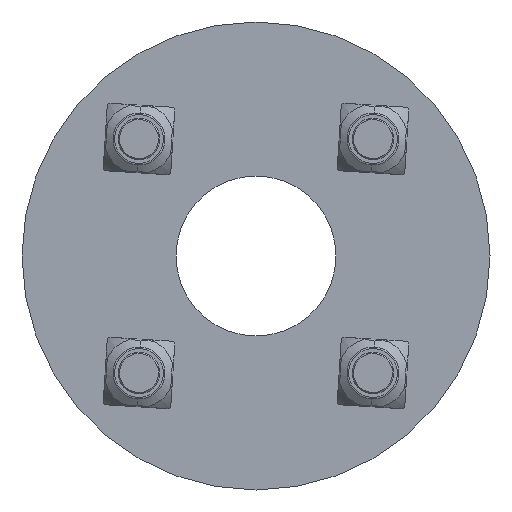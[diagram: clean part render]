
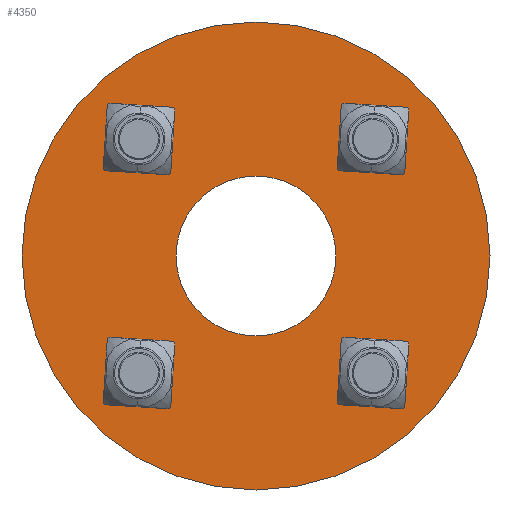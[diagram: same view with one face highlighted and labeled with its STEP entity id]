
A CAD part, front view. The second image highlights one B-rep face of the part: STEP entity #4350.
In plain terms, the highlighted planar face has unit normal (0, -1, 0).
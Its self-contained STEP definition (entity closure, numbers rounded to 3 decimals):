
#416 = CARTESIAN_POINT ( 'NONE',  ( -96.71, 19.337, 0. ) ) ;
#457 = DIRECTION ( 'NONE',  ( 0., 0., 1. ) ) ;
#461 = DIRECTION ( 'NONE',  ( 0., 1., 0. ) ) ;
#480 = PLANE ( 'NONE',  #5069 ) ;
#1379 = AXIS2_PLACEMENT_3D ( 'NONE', #7019, #7012, #7008 ) ;
#1451 = AXIS2_PLACEMENT_3D ( 'NONE', #3875, #3874, #3873 ) ;
#1477 = AXIS2_PLACEMENT_3D ( 'NONE', #5467, #5465, #5464 ) ;
#1488 = AXIS2_PLACEMENT_3D ( 'NONE', #3927, #3926, #3925 ) ;
#1491 = AXIS2_PLACEMENT_3D ( 'NONE', #6982, #6981, #6980 ) ;
#1493 = AXIS2_PLACEMENT_3D ( 'NONE', #6863, #6881, #6947 ) ;
#1518 = AXIS2_PLACEMENT_3D ( 'NONE', #5377, #5376, #5375 ) ;
#1543 = AXIS2_PLACEMENT_3D ( 'NONE', #5247, #5246, #5245 ) ;
#1569 = AXIS2_PLACEMENT_3D ( 'NONE', #5692, #5690, #5689 ) ;
#1572 = AXIS2_PLACEMENT_3D ( 'NONE', #6651, #6653, #6640 ) ;
#1581 = AXIS2_PLACEMENT_3D ( 'NONE', #5417, #5415, #5414 ) ;
#1646 = AXIS2_PLACEMENT_3D ( 'NONE', #5273, #5272, #5271 ) ;
#1695 = ORIENTED_EDGE ( 'NONE', *, *, #5066, .T. ) ;
#1699 = ORIENTED_EDGE ( 'NONE', *, *, #4949, .T. ) ;
#1700 = ORIENTED_EDGE ( 'NONE', *, *, #5009, .F. ) ;
#1703 = ORIENTED_EDGE ( 'NONE', *, *, #4826, .F. ) ;
#1705 = ORIENTED_EDGE ( 'NONE', *, *, #4847, .T. ) ;
#1720 = ORIENTED_EDGE ( 'NONE', *, *, #5057, .T. ) ;
#1742 = ORIENTED_EDGE ( 'NONE', *, *, #4993, .T. ) ;
#1744 = ORIENTED_EDGE ( 'NONE', *, *, #5054, .T. ) ;
#1747 = ORIENTED_EDGE ( 'NONE', *, *, #5017, .T. ) ;
#1760 = ORIENTED_EDGE ( 'NONE', *, *, #5079, .T. ) ;
#1969 = EDGE_LOOP ( 'NONE', ( #1747, #1760 ) ) ;
#1996 = ORIENTED_EDGE ( 'NONE', *, *, #5047, .T. ) ;
#2015 = ORIENTED_EDGE ( 'NONE', *, *, #5110, .T. ) ;
#2065 = EDGE_LOOP ( 'NONE', ( #1744, #1742 ) ) ;
#2083 = EDGE_LOOP ( 'NONE', ( #1700, #1703 ) ) ;
#2086 = EDGE_LOOP ( 'NONE', ( #1699, #1720 ) ) ;
#2147 = EDGE_LOOP ( 'NONE', ( #2015, #1705 ) ) ;
#2152 = EDGE_LOOP ( 'NONE', ( #1695, #1996 ) ) ;
#2774 = CARTESIAN_POINT ( 'NONE',  ( -96.71, 19.337, -15.375 ) ) ;
#2914 = CARTESIAN_POINT ( 'NONE',  ( -74.21, 19.337, -18. ) ) ;
#2921 = CARTESIAN_POINT ( 'NONE',  ( -119.21, 19.337, -18. ) ) ;
#2931 = CARTESIAN_POINT ( 'NONE',  ( -74.21, 19.337, 18. ) ) ;
#2938 = CARTESIAN_POINT ( 'NONE',  ( -74.21, 19.337, 27. ) ) ;
#2961 = CARTESIAN_POINT ( 'NONE',  ( -119.21, 19.337, -27. ) ) ;
#2966 = CARTESIAN_POINT ( 'NONE',  ( -96.71, 19.337, 15.375 ) ) ;
#2974 = CARTESIAN_POINT ( 'NONE',  ( -96.71, 19.337, 45. ) ) ;
#2976 = CARTESIAN_POINT ( 'NONE',  ( -96.71, 19.337, -45. ) ) ;
#2983 = CARTESIAN_POINT ( 'NONE',  ( -119.21, 19.337, 18. ) ) ;
#2988 = CARTESIAN_POINT ( 'NONE',  ( -74.21, 19.337, -27. ) ) ;
#3009 = CARTESIAN_POINT ( 'NONE',  ( -119.21, 19.337, 27. ) ) ;
#3074 = CIRCLE ( 'NONE', #1451, 4.5 ) ;
#3108 = CIRCLE ( 'NONE', #1488, 45. ) ;
#3873 = DIRECTION ( 'NONE',  ( 0., 0., 1. ) ) ;
#3874 = DIRECTION ( 'NONE',  ( 0., 1., 0. ) ) ;
#3875 = CARTESIAN_POINT ( 'NONE',  ( -74.21, 19.337, -22.5 ) ) ;
#3925 = DIRECTION ( 'NONE',  ( 0., 0., 1. ) ) ;
#3926 = DIRECTION ( 'NONE',  ( 0., 1., 0. ) ) ;
#3927 = CARTESIAN_POINT ( 'NONE',  ( -96.71, 19.337, 0. ) ) ;
#4350 = ADVANCED_FACE ( 'NONE', ( #6166, #6131, #6128, #6154, #6160, #6163 ), #480, .F. ) ;
#4826 = EDGE_CURVE ( 'NONE', #6231, #6225, #3108, .T. ) ;
#4847 = EDGE_CURVE ( 'NONE', #6200, #6353, #3074, .T. ) ;
#4949 = EDGE_CURVE ( 'NONE', #6306, #6317, #6090, .T. ) ;
#4993 = EDGE_CURVE ( 'NONE', #6144, #6248, #6043, .T. ) ;
#5009 = EDGE_CURVE ( 'NONE', #6225, #6231, #6020, .T. ) ;
#5017 = EDGE_CURVE ( 'NONE', #6335, #6258, #6006, .T. ) ;
#5047 = EDGE_CURVE ( 'NONE', #6207, #6182, #5962, .T. ) ;
#5054 = EDGE_CURVE ( 'NONE', #6248, #6144, #5953, .T. ) ;
#5057 = EDGE_CURVE ( 'NONE', #6317, #6306, #5948, .T. ) ;
#5066 = EDGE_CURVE ( 'NONE', #6182, #6207, #5938, .T. ) ;
#5069 = AXIS2_PLACEMENT_3D ( 'NONE', #416, #461, #457 ) ;
#5079 = EDGE_CURVE ( 'NONE', #6258, #6335, #5920, .T. ) ;
#5110 = EDGE_CURVE ( 'NONE', #6353, #6200, #5915, .T. ) ;
#5245 = DIRECTION ( 'NONE',  ( 0., 0., 1. ) ) ;
#5246 = DIRECTION ( 'NONE',  ( 0., 1., 0. ) ) ;
#5247 = CARTESIAN_POINT ( 'NONE',  ( -96.71, 19.337, 0. ) ) ;
#5271 = DIRECTION ( 'NONE',  ( 0., 0., 1. ) ) ;
#5272 = DIRECTION ( 'NONE',  ( 0., 1., 0. ) ) ;
#5273 = CARTESIAN_POINT ( 'NONE',  ( -119.21, 19.337, 22.5 ) ) ;
#5375 = DIRECTION ( 'NONE',  ( 0., 0., 1. ) ) ;
#5376 = DIRECTION ( 'NONE',  ( 0., 1., 0. ) ) ;
#5377 = CARTESIAN_POINT ( 'NONE',  ( -119.21, 19.337, -22.5 ) ) ;
#5414 = DIRECTION ( 'NONE',  ( 0., 0., 1. ) ) ;
#5415 = DIRECTION ( 'NONE',  ( 0., 1., 0. ) ) ;
#5417 = CARTESIAN_POINT ( 'NONE',  ( -96.71, 19.337, 0. ) ) ;
#5464 = DIRECTION ( 'NONE',  ( 0., 0., 1. ) ) ;
#5465 = DIRECTION ( 'NONE',  ( 0., 1., 0. ) ) ;
#5467 = CARTESIAN_POINT ( 'NONE',  ( -96.71, 19.337, 0. ) ) ;
#5689 = DIRECTION ( 'NONE',  ( 0., 0., 1. ) ) ;
#5690 = DIRECTION ( 'NONE',  ( 0., 1., 0. ) ) ;
#5692 = CARTESIAN_POINT ( 'NONE',  ( -74.21, 19.337, 22.5 ) ) ;
#5915 = CIRCLE ( 'NONE', #1491, 4.5 ) ;
#5920 = CIRCLE ( 'NONE', #1572, 4.5 ) ;
#5938 = CIRCLE ( 'NONE', #1493, 4.5 ) ;
#5948 = CIRCLE ( 'NONE', #1379, 4.5 ) ;
#5953 = CIRCLE ( 'NONE', #1543, 15.375 ) ;
#5962 = CIRCLE ( 'NONE', #1646, 4.5 ) ;
#6006 = CIRCLE ( 'NONE', #1518, 4.5 ) ;
#6020 = CIRCLE ( 'NONE', #1581, 45. ) ;
#6043 = CIRCLE ( 'NONE', #1477, 15.375 ) ;
#6090 = CIRCLE ( 'NONE', #1569, 4.5 ) ;
#6128 = FACE_BOUND ( 'NONE', #2152, .T. ) ;
#6131 = FACE_BOUND ( 'NONE', #1969, .T. ) ;
#6144 = VERTEX_POINT ( 'NONE', #2774 ) ;
#6154 = FACE_BOUND ( 'NONE', #2147, .T. ) ;
#6160 = FACE_BOUND ( 'NONE', #2086, .T. ) ;
#6163 = FACE_OUTER_BOUND ( 'NONE', #2083, .T. ) ;
#6166 = FACE_BOUND ( 'NONE', #2065, .T. ) ;
#6182 = VERTEX_POINT ( 'NONE', #3009 ) ;
#6200 = VERTEX_POINT ( 'NONE', #2988 ) ;
#6207 = VERTEX_POINT ( 'NONE', #2983 ) ;
#6225 = VERTEX_POINT ( 'NONE', #2976 ) ;
#6231 = VERTEX_POINT ( 'NONE', #2974 ) ;
#6248 = VERTEX_POINT ( 'NONE', #2966 ) ;
#6258 = VERTEX_POINT ( 'NONE', #2961 ) ;
#6306 = VERTEX_POINT ( 'NONE', #2938 ) ;
#6317 = VERTEX_POINT ( 'NONE', #2931 ) ;
#6335 = VERTEX_POINT ( 'NONE', #2921 ) ;
#6353 = VERTEX_POINT ( 'NONE', #2914 ) ;
#6640 = DIRECTION ( 'NONE',  ( 0., 0., 1. ) ) ;
#6651 = CARTESIAN_POINT ( 'NONE',  ( -119.21, 19.337, -22.5 ) ) ;
#6653 = DIRECTION ( 'NONE',  ( 0., 1., 0. ) ) ;
#6863 = CARTESIAN_POINT ( 'NONE',  ( -119.21, 19.337, 22.5 ) ) ;
#6881 = DIRECTION ( 'NONE',  ( 0., 1., 0. ) ) ;
#6947 = DIRECTION ( 'NONE',  ( 0., 0., 1. ) ) ;
#6980 = DIRECTION ( 'NONE',  ( 0., 0., 1. ) ) ;
#6981 = DIRECTION ( 'NONE',  ( 0., 1., 0. ) ) ;
#6982 = CARTESIAN_POINT ( 'NONE',  ( -74.21, 19.337, -22.5 ) ) ;
#7008 = DIRECTION ( 'NONE',  ( 0., 0., 1. ) ) ;
#7012 = DIRECTION ( 'NONE',  ( 0., 1., 0. ) ) ;
#7019 = CARTESIAN_POINT ( 'NONE',  ( -74.21, 19.337, 22.5 ) ) ;
